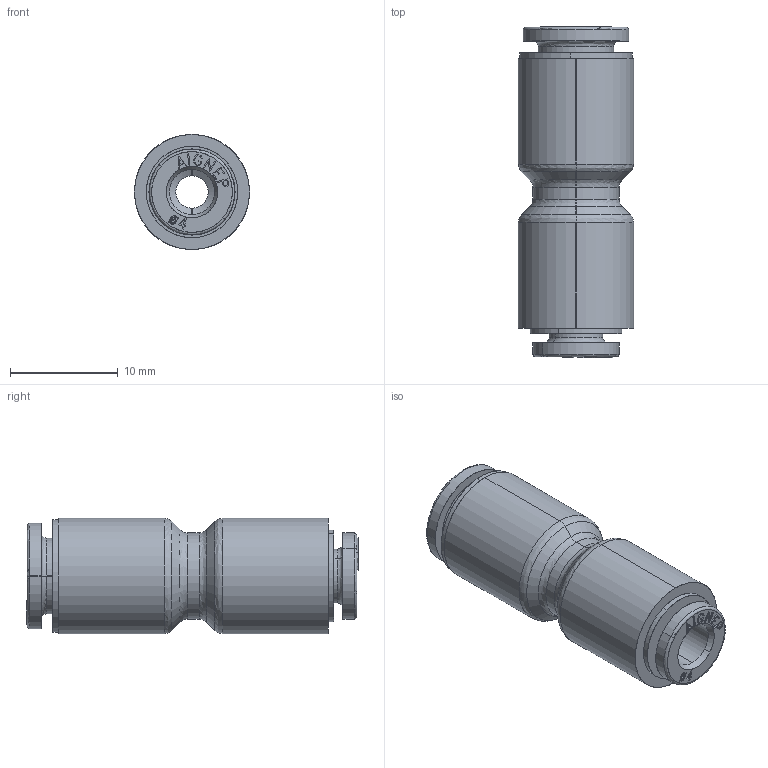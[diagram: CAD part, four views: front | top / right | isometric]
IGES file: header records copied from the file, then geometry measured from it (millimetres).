
Start section: SolidWorks IGES file using analytic representation for surfaces
Global section: file name: K:\Disegni Esecutivi\SERIE 54000\54000-Assiemi\54040\Iges\5404000009A.IGS; native system: SolidWorks 2020; preprocessor: SolidWorks 2020; author: CAD13; date: 240918.114019; units: millimetre
Bounding box: 10.7 x 30.85 x 10.7 mm (x, y, z)
Surface area: 1751.1 mm2 (no closed solid volume)
Topology: 0 solids, 0 shells, 455 faces, 3484 edges, 3484 vertices
Faces by surface type: bspline 419, revolution 36
